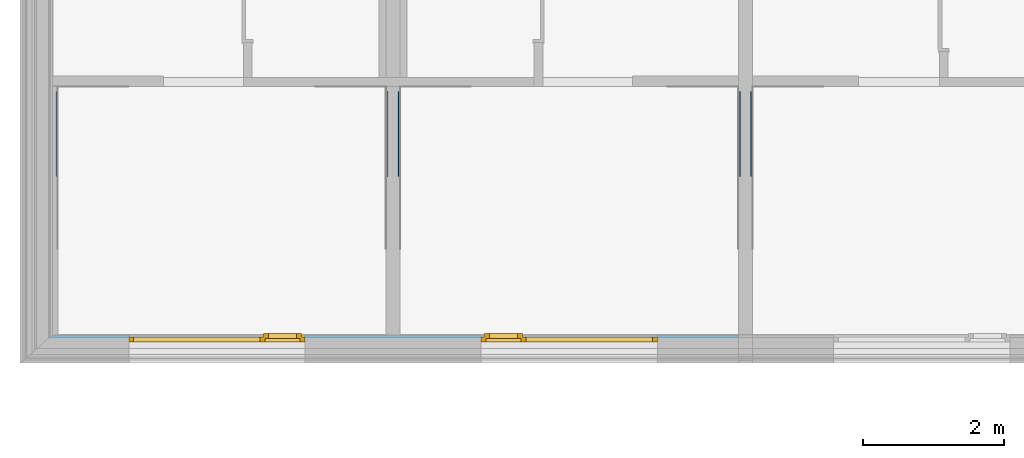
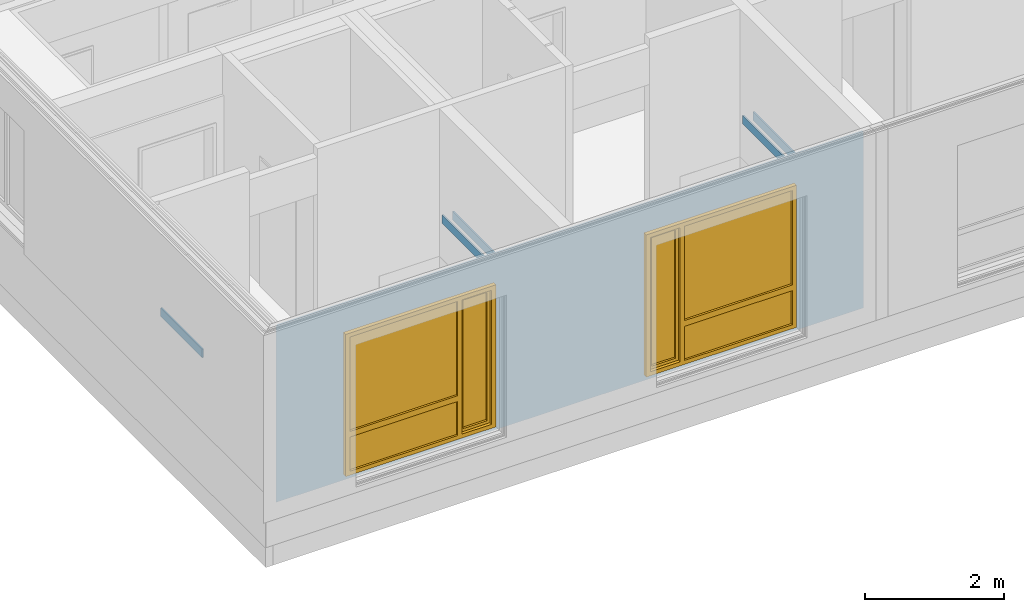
# One storey, part 66 of 207: 5 walls, 2 windows, 2 openings, plus 1 element that does not belong to this part.
"""IFC4 building model written with IfcOpenShell, lengths in metres."""

from ifc_helpers import new_model, entity, si_unit, converted_unit, derived_unit, frame, origin, origin_with_axes, place, context, subcontext, project, spatial, polyline, outline, extrude, closed_shell, open_shell, faceted_brep, surface_model, source, transform, mapped, material, element, fill, save


model = new_model("IFC4")

# Units and contexts
model_context = context("Model", 3, precision=1e-05, world=origin())
body_context = subcontext(model_context, "Body", "Model", "MODEL_VIEW")
ifc_project = project(units=[si_unit("LENGTHUNIT", "METRE"), si_unit("AREAUNIT", "SQUARE_METRE"), si_unit("VOLUMEUNIT", "CUBIC_METRE"), si_unit("MASSUNIT", "GRAM", prefix="KILO"), converted_unit("PLANEANGLEUNIT", "DEGREE", entity("IfcPlaneAngleMeasure", 0.0174532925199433), si_unit("PLANEANGLEUNIT", "RADIAN"), dimensions=[0, 0, 0, 0, 0, 0, 0]), derived_unit("THERMALTRANSMITTANCEUNIT", [(si_unit("POWERUNIT", "WATT"), 1), (si_unit("THERMODYNAMICTEMPERATUREUNIT", "KELVIN"), -1), (si_unit("LENGTHUNIT", "METRE"), -2)]), derived_unit("VOLUMETRICFLOWRATEUNIT", [(si_unit("LENGTHUNIT", "METRE"), 3), (converted_unit("TIMEUNIT", "hour", entity("IfcTimeMeasure", 3600.0), si_unit("TIMEUNIT", "SECOND"), dimensions=[0, 0, 1, 0, 0, 0, 0]), -1), (si_unit("LENGTHUNIT", "METRE"), -1)])], contexts=[model_context])

# Site, building, storey
site_placement = place(None, origin())
site = spatial("IfcSite", under=ifc_project, at=site_placement, Name="Psychiatrie Neubau Wunstorf", CompositionType="ELEMENT")
building_placement = place(site_placement, origin())
building = spatial("IfcBuilding", under=site, at=building_placement, Name="Neubau H2 Stationsgebäude", CompositionType="ELEMENT")
storey_placement = place(building_placement, frame((0.0, 0.0, -0.2)))
storey = spatial("IfcBuildingStorey", under=building, at=storey_placement, Name="H2 Ebene 0", CompositionType="ELEMENT", Elevation=-0.2)

# Wall, openings, windows
ifc_material = material(Name="WA-LB")
wall_1_placement = place(storey_placement, frame((9.9, -2.16399999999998, 0.5), z_axis=(0.0, 0.0, 1.0), x_axis=(-1.0, 1.40209871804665e-16, 0.0)))
wall_1 = element("IfcWall", 1, at=wall_1_placement, inside=storey, material=ifc_material, context=body_context, shape_type="SweptSolid", body=[
    extrude(outline(polyline([(-9.77137313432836, -0.0360000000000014), (-0.0413731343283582, -0.0360000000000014), (0.0, 0.0), (-9.77137313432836, 0.0), (-9.77137313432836, -0.0360000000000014)])), frame((9.77137313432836, 0.0360000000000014, 0.0), z_axis=(0.0, 0.0, 1.0), x_axis=(1.0, 0.0, 0.0)), (0.0, 0.0, 1.0), 3.1),
])
opening_1_placement = place(wall_1_placement, frame((6.15, 0.0, 0.1), z_axis=(0.0, 1.0, 0.0), x_axis=(0.0, 0.0, 1.0)))
opening_1 = element("IfcOpeningElement", 2, at=opening_1_placement, cuts=wall_1, Name="Fensteröffnung", ObjectType="Opening", context=body_context, shape_type="SweptSolid", body=[
    extrude(outline(polyline([(2.5, 2.5), (2.5, 0.0), (0.0, 0.0), (0.0, 2.5), (2.5, 2.5)])), origin_with_axes(), (0.0, 0.0, 1.0), 0.036),
])
opening_2_placement = place(wall_1_placement, frame((1.15, 0.0, 0.1), z_axis=(0.0, 1.0, 0.0), x_axis=(0.0, 0.0, 1.0)))
opening_2 = element("IfcOpeningElement", 3, at=opening_2_placement, cuts=wall_1, Name="Fensteröffnung", ObjectType="Opening", context=body_context, shape_type="SweptSolid", body=[
    extrude(outline(polyline([(2.5, 2.5), (2.5, 0.0), (0.0, 0.0), (0.0, 2.5), (2.5, 2.5)])), origin_with_axes(), (0.0, 0.0, 1.0), 0.036),
])
shared_shape_1 = source(origin_with_axes(), body_context, "Body", "SurfaceModel", [
    surface_model("IfcShellBasedSurfaceModel", [(0.0, 0.0, 2.5), (0.07, 0.0, 2.5), (0.07, 0.0, 0.0), (0.0, 0.0, 0.0), (0.0, 0.0699999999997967, 0.0), (0.07, 0.0699999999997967, 0.0), (0.07, 0.0699999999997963, 2.5), (0.0, 0.0699999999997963, 2.5)], [closed_shell([[[0, 1, 2, 3]], [[4, 5, 6, 7]], [[3, 4, 7, 0]], [[2, 5, 4, 3]], [[1, 6, 5, 2]], [[0, 7, 6, 1]]], orient=[[False], [False], [False], [False], [False], [False]])]),
    surface_model("IfcShellBasedSurfaceModel", [(2.43, 0.0, 2.5), (2.5, 0.0, 2.5), (2.5, 0.0, 0.0), (2.43, 0.0, 0.0), (2.43, 0.0699999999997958, 0.0), (2.5, 0.0699999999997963, 0.0), (2.5, 0.0699999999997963, 2.5), (2.43, 0.0699999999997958, 2.5)], [closed_shell([[[0, 1, 2, 3]], [[4, 5, 6, 7]], [[3, 4, 7, 0]], [[2, 5, 4, 3]], [[1, 6, 5, 2]], [[0, 7, 6, 1]]], orient=[[False], [False], [False], [False], [False], [False]])]),
    surface_model("IfcShellBasedSurfaceModel", [(0.07, 0.0, 0.07), (2.43, 0.0, 0.07), (2.43, 0.0, 0.0), (0.07, 0.0, 0.0), (0.07, 0.0699999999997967, 0.0), (2.43, 0.0699999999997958, 0.0), (2.43, 0.0699999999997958, 0.07), (0.07, 0.0699999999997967, 0.07)], [closed_shell([[[0, 1, 2, 3]], [[4, 5, 6, 7]], [[3, 4, 7, 0]], [[2, 5, 4, 3]], [[1, 6, 5, 2]], [[0, 7, 6, 1]]], orient=[[False], [False], [False], [False], [False], [False]])]),
    surface_model("IfcShellBasedSurfaceModel", [(0.07, 0.0, 2.5), (2.43, 0.0, 2.5), (2.43, 0.0, 2.43), (0.07, 0.0, 2.43), (0.07, 0.0699999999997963, 2.43), (2.43, 0.0699999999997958, 2.43), (2.43, 0.0699999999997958, 2.5), (0.07, 0.0699999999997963, 2.5)], [closed_shell([[[0, 1, 2, 3]], [[4, 5, 6, 7]], [[3, 4, 7, 0]], [[2, 5, 4, 3]], [[1, 6, 5, 2]], [[0, 7, 6, 1]]], orient=[[False], [False], [False], [False], [False], [False]])]),
    surface_model("IfcShellBasedSurfaceModel", [(0.565714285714, 0.0, 2.43), (0.635714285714, 0.0, 2.43), (0.635714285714, 0.0, 0.07), (0.565714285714, 0.0, 0.07), (0.565714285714, 0.0699999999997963, 0.07), (0.635714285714, 0.0699999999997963, 0.07), (0.635714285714, 0.0699999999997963, 2.43), (0.565714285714, 0.0699999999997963, 2.43)], [closed_shell([[[0, 1, 2, 3]], [[4, 5, 6, 7]], [[3, 4, 7, 0]], [[2, 5, 4, 3]], [[1, 6, 5, 2]], [[0, 7, 6, 1]]], orient=[[False], [False], [False], [False], [False], [False]])]),
    surface_model("IfcShellBasedSurfaceModel", [(0.05, -0.05, 2.45), (0.12, -0.05, 2.45), (0.12, -0.0499999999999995, 0.05), (0.05, -0.0499999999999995, 0.05), (0.05, 0.0199999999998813, 0.05), (0.12, 0.0199999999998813, 0.05), (0.12, 0.0199999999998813, 2.45), (0.05, 0.0199999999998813, 2.45)], [closed_shell([[[0, 1, 2, 3]], [[4, 5, 6, 7]], [[3, 4, 7, 0]], [[2, 5, 4, 3]], [[1, 6, 5, 2]], [[0, 7, 6, 1]]], orient=[[False], [False], [False], [False], [False], [False]])]),
    surface_model("IfcShellBasedSurfaceModel", [(0.515714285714, -0.05, 2.45), (0.585714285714, -0.05, 2.45), (0.585714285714, -0.05, 0.05), (0.515714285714, -0.05, 0.05), (0.515714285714, 0.0199999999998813, 0.05), (0.585714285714, 0.0199999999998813, 0.05), (0.585714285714, 0.0199999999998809, 2.45), (0.515714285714, 0.0199999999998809, 2.45)], [closed_shell([[[0, 1, 2, 3]], [[4, 5, 6, 7]], [[3, 4, 7, 0]], [[2, 5, 4, 3]], [[1, 6, 5, 2]], [[0, 7, 6, 1]]], orient=[[False], [False], [False], [False], [False], [False]])]),
    surface_model("IfcShellBasedSurfaceModel", [(0.12, -0.0499999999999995, 0.12), (0.515714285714, -0.05, 0.12), (0.515714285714, -0.05, 0.05), (0.12, -0.0499999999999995, 0.05), (0.12, 0.0199999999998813, 0.05), (0.515714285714, 0.0199999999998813, 0.05), (0.515714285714, 0.0199999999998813, 0.12), (0.12, 0.0199999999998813, 0.12)], [closed_shell([[[0, 1, 2, 3]], [[4, 5, 6, 7]], [[3, 4, 7, 0]], [[2, 5, 4, 3]], [[1, 6, 5, 2]], [[0, 7, 6, 1]]], orient=[[False], [False], [False], [False], [False], [False]])]),
    surface_model("IfcShellBasedSurfaceModel", [(0.12, -0.05, 2.45), (0.515714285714, -0.05, 2.45), (0.515714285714, -0.05, 2.38), (0.12, -0.05, 2.38), (0.12, 0.0199999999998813, 2.38), (0.515714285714, 0.0199999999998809, 2.38), (0.515714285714, 0.0199999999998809, 2.45), (0.12, 0.0199999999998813, 2.45)], [closed_shell([[[0, 1, 2, 3]], [[4, 5, 6, 7]], [[3, 4, 7, 0]], [[2, 5, 4, 3]], [[1, 6, 5, 2]], [[0, 7, 6, 1]]], orient=[[False], [False], [False], [False], [False], [False]])]),
    surface_model("IfcShellBasedSurfaceModel", [(0.635714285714, 0.0, 0.77), (2.43, 0.0, 0.77), (2.43, 0.0, 0.67), (0.635714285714, 0.0, 0.67), (0.635714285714, 0.0699999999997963, 0.67), (2.43, 0.0699999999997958, 0.67), (2.43, 0.0699999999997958, 0.77), (0.635714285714, 0.0699999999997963, 0.77)], [closed_shell([[[0, 1, 2, 3]], [[4, 5, 6, 7]], [[3, 4, 7, 0]], [[2, 5, 4, 3]], [[1, 6, 5, 2]], [[0, 7, 6, 1]]], orient=[[False], [False], [False], [False], [False], [False]])]),
    surface_model("IfcShellBasedSurfaceModel", [(0.12, -0.0150000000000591, 0.12), (0.12, -0.0150000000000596, 2.38), (0.515714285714, -0.0150000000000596, 2.38), (0.515714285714, -0.0150000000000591, 0.12)], [open_shell([[[0, 1, 2, 3]]], orient=[[False]])]),
    surface_model("IfcShellBasedSurfaceModel", [(0.635714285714, 0.0349999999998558, 0.07), (0.635714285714, 0.0349999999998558, 0.67), (2.43, 0.0349999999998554, 0.67), (2.43, 0.0349999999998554, 0.07)], [open_shell([[[0, 1, 2, 3]]], orient=[[False]])]),
    surface_model("IfcShellBasedSurfaceModel", [(0.635714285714, 0.0349999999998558, 0.77), (0.635714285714, 0.0349999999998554, 2.43), (2.43, 0.0349999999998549, 2.43), (2.43, 0.0349999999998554, 0.77)], [open_shell([[[0, 1, 2, 3]]], orient=[[False]])]),
])
window_1_placement = place(opening_1_placement, frame((0.0, 0.0, 0.03), z_axis=(1.0, 0.0, 0.0), x_axis=(0.0, 1.0, -4.16890685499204e-17)))
window_1 = element("IfcWindow", 4, at=window_1_placement, inside=storey, Name="Fenster", OverallHeight=2.5, OverallWidth=2.5, PartitioningType="USERDEFINED", PredefinedType="WINDOW", context=body_context, shape_type="MappedRepresentation", body=[
    mapped(shared_shape_1, transform((0.0, 0.0, 0.0), x_axis=(1.0, 0.0, 0.0), y_axis=(0.0, 1.0, 0.0), z_axis=(0.0, 0.0, 1.0), scale=1.0)),
])
fill(opening_1, window_1)
shared_shape_2 = source(origin_with_axes(), body_context, "Body", "SurfaceModel", [
    surface_model("IfcShellBasedSurfaceModel", [(2.5, 0.0, 2.5), (2.5, 0.0, 0.0), (2.43, 0.0, 0.0), (2.43, 0.0, 2.5), (2.5, 0.0699999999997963, 0.0), (2.5, 0.0699999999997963, 2.5), (2.43, 0.0699999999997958, 2.5), (2.43, 0.0699999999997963, 0.0)], [closed_shell([[[0, 1, 2, 3]], [[4, 5, 6, 7]], [[1, 0, 5, 4]], [[2, 1, 4, 7]], [[3, 2, 7, 6]], [[0, 3, 6, 5]]], orient=[[False], [False], [False], [False], [False], [False]])]),
    surface_model("IfcShellBasedSurfaceModel", [(0.07, 0.0, 2.5), (0.07, 0.0, 0.0), (0.0, 0.0, 0.0), (0.0, 0.0, 2.5), (0.07, 0.0699999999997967, 0.0), (0.07, 0.0699999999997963, 2.5), (0.0, 0.0699999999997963, 2.5), (0.0, 0.0699999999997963, 0.0)], [closed_shell([[[0, 1, 2, 3]], [[4, 5, 6, 7]], [[1, 0, 5, 4]], [[2, 1, 4, 7]], [[3, 2, 7, 6]], [[0, 3, 6, 5]]], orient=[[False], [False], [False], [False], [False], [False]])]),
    surface_model("IfcShellBasedSurfaceModel", [(2.43, 0.0, 0.07), (2.43, 0.0, 0.0), (0.07, 0.0, 0.0), (0.07, 0.0, 0.07), (2.43, 0.0699999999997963, 0.0), (2.43, 0.0699999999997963, 0.07), (0.07, 0.0699999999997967, 0.07), (0.07, 0.0699999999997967, 0.0)], [closed_shell([[[0, 1, 2, 3]], [[4, 5, 6, 7]], [[1, 0, 5, 4]], [[2, 1, 4, 7]], [[3, 2, 7, 6]], [[0, 3, 6, 5]]], orient=[[False], [False], [False], [False], [False], [False]])]),
    surface_model("IfcShellBasedSurfaceModel", [(2.43, 0.0, 2.5), (2.43, 0.0, 2.43), (0.07, 0.0, 2.43), (0.07, 0.0, 2.5), (2.43, 0.0699999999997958, 2.43), (2.43, 0.0699999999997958, 2.5), (0.07, 0.0699999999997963, 2.5), (0.07, 0.0699999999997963, 2.43)], [closed_shell([[[0, 1, 2, 3]], [[4, 5, 6, 7]], [[1, 0, 5, 4]], [[2, 1, 4, 7]], [[3, 2, 7, 6]], [[0, 3, 6, 5]]], orient=[[False], [False], [False], [False], [False], [False]])]),
    surface_model("IfcShellBasedSurfaceModel", [(1.934285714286, 0.0, 2.43), (1.934285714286, 0.0, 0.07), (1.864285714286, 0.0, 0.07), (1.864285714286, 0.0, 2.43), (1.934285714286, 0.0699999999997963, 0.07), (1.934285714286, 0.0699999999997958, 2.43), (1.864285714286, 0.0699999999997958, 2.43), (1.864285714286, 0.0699999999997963, 0.07)], [closed_shell([[[0, 1, 2, 3]], [[4, 5, 6, 7]], [[1, 0, 5, 4]], [[2, 1, 4, 7]], [[3, 2, 7, 6]], [[0, 3, 6, 5]]], orient=[[False], [False], [False], [False], [False], [False]])]),
    surface_model("IfcShellBasedSurfaceModel", [(2.45, -0.0500000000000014, 2.45), (2.45, -0.0500000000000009, 0.05), (2.38, -0.0500000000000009, 0.05), (2.38, -0.0500000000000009, 2.45), (2.45, 0.0199999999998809, 0.05), (2.45, 0.0199999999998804, 2.45), (2.38, 0.0199999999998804, 2.45), (2.38, 0.0199999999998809, 0.05)], [closed_shell([[[0, 1, 2, 3]], [[4, 5, 6, 7]], [[1, 0, 5, 4]], [[2, 1, 4, 7]], [[3, 2, 7, 6]], [[0, 3, 6, 5]]], orient=[[False], [False], [False], [False], [False], [False]])]),
    surface_model("IfcShellBasedSurfaceModel", [(1.984285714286, -0.0500000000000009, 2.45), (1.984285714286, -0.0500000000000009, 0.05), (1.914285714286, -0.0500000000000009, 0.05), (1.914285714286, -0.0500000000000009, 2.45), (1.984285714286, 0.0199999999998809, 0.05), (1.984285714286, 0.0199999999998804, 2.45), (1.914285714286, 0.0199999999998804, 2.45), (1.914285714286, 0.0199999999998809, 0.05)], [closed_shell([[[0, 1, 2, 3]], [[4, 5, 6, 7]], [[1, 0, 5, 4]], [[2, 1, 4, 7]], [[3, 2, 7, 6]], [[0, 3, 6, 5]]], orient=[[False], [False], [False], [False], [False], [False]])]),
    surface_model("IfcShellBasedSurfaceModel", [(2.38, -0.0500000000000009, 0.12), (2.38, -0.0500000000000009, 0.05), (1.984285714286, -0.0500000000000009, 0.05), (1.984285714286, -0.0500000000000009, 0.12), (2.38, 0.0199999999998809, 0.05), (2.38, 0.0199999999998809, 0.12), (1.984285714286, 0.0199999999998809, 0.12), (1.984285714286, 0.0199999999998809, 0.05)], [closed_shell([[[0, 1, 2, 3]], [[4, 5, 6, 7]], [[1, 0, 5, 4]], [[2, 1, 4, 7]], [[3, 2, 7, 6]], [[0, 3, 6, 5]]], orient=[[False], [False], [False], [False], [False], [False]])]),
    surface_model("IfcShellBasedSurfaceModel", [(2.38, -0.0500000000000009, 2.45), (2.38, -0.0500000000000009, 2.38), (1.984285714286, -0.0500000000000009, 2.38), (1.984285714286, -0.0500000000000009, 2.45), (2.38, 0.0199999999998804, 2.38), (2.38, 0.0199999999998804, 2.45), (1.984285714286, 0.0199999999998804, 2.45), (1.984285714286, 0.0199999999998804, 2.38)], [closed_shell([[[0, 1, 2, 3]], [[4, 5, 6, 7]], [[1, 0, 5, 4]], [[2, 1, 4, 7]], [[3, 2, 7, 6]], [[0, 3, 6, 5]]], orient=[[False], [False], [False], [False], [False], [False]])]),
    surface_model("IfcShellBasedSurfaceModel", [(1.864285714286, 0.0, 0.77), (1.864285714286, 0.0, 0.67), (0.07, 0.0, 0.67), (0.07, 0.0, 0.77), (1.864285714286, 0.0699999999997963, 0.67), (1.864285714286, 0.0699999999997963, 0.77), (0.07, 0.0699999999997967, 0.77), (0.07, 0.0699999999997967, 0.67)], [closed_shell([[[0, 1, 2, 3]], [[4, 5, 6, 7]], [[1, 0, 5, 4]], [[2, 1, 4, 7]], [[3, 2, 7, 6]], [[0, 3, 6, 5]]], orient=[[False], [False], [False], [False], [False], [False]])]),
    surface_model("IfcShellBasedSurfaceModel", [(2.38, -0.01500000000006, 0.12), (1.984285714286, -0.01500000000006, 0.12), (1.984285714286, -0.01500000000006, 2.38), (2.38, -0.0150000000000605, 2.38)], [open_shell([[[0, 1, 2, 3]]], orient=[[False]])]),
    surface_model("IfcShellBasedSurfaceModel", [(1.864285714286, 0.0349999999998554, 0.07), (0.07, 0.0349999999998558, 0.07), (0.07, 0.0349999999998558, 0.67), (1.864285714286, 0.0349999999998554, 0.67)], [open_shell([[[0, 1, 2, 3]]], orient=[[False]])]),
    surface_model("IfcShellBasedSurfaceModel", [(1.864285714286, 0.0349999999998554, 0.77), (0.07, 0.0349999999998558, 0.77), (0.07, 0.0349999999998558, 2.43), (1.864285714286, 0.0349999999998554, 2.43)], [open_shell([[[0, 1, 2, 3]]], orient=[[False]])]),
])
window_2_placement = place(opening_2_placement, frame((0.0, 0.0, 0.03), z_axis=(1.0, 0.0, 0.0), x_axis=(0.0, 1.0, -4.16890685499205e-17)))
window_2 = element("IfcWindow", 5, at=window_2_placement, inside=storey, Name="Fenster", OverallHeight=2.5, OverallWidth=2.5, PartitioningType="USERDEFINED", PredefinedType="WINDOW", context=body_context, shape_type="MappedRepresentation", body=[
    mapped(shared_shape_2, transform((0.0, 0.0, 0.0), x_axis=(1.0, 0.0, 0.0), y_axis=(0.0, 1.0, 0.0), z_axis=(0.0, 0.0, 1.0), scale=1.0)),
])
fill(opening_2, window_2)

# Walls
wall_2_placement = place(storey_placement, frame((4.9, 0.0854496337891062, 1.625)))
element("IfcWall", 6, at=wall_2_placement, inside=storey, Name="WV 1.1", context=body_context, shape_type="Brep", body=[
    faceted_brep([(0.025, 1.2, 0.0), (0.0, 1.2, 0.0), (0.0, 0.0, 0.0), (0.025, 0.0, 0.0), (0.0, 1.2, 0.15), (0.025, 1.2, 0.15), (0.025, 0.0, 0.15), (0.0, 0.0, 0.15)], [[[0, 1, 2, 3]], [[4, 5, 6, 7]], [[1, 0, 5, 4]], [[2, 1, 4, 7]], [[3, 2, 7, 6]], [[0, 3, 6, 5]]], orient=[[False], [False], [False], [False], [False], [False]]),
])
wall_3_placement = place(storey_placement, frame((0.219999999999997, 0.0854496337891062, 1.625)))
element("IfcWall", 7, at=wall_3_placement, inside=storey, Name="WV 1.1", context=body_context, shape_type="Brep", body=[
    faceted_brep([(0.025, 1.2, 0.0), (0.0, 1.2, 0.0), (0.0, 0.0, 0.0), (0.0250000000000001, 0.0, 0.0), (0.0, 1.2, 0.15), (0.025, 1.2, 0.15), (0.0250000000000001, 0.0, 0.15), (0.0, 0.0, 0.15)], [[[0, 1, 2, 3]], [[4, 5, 6, 7]], [[1, 0, 5, 4]], [[2, 1, 4, 7]], [[3, 2, 7, 6]], [[0, 3, 6, 5]]], orient=[[False], [False], [False], [False], [False], [False]]),
])
for number, where, name in (
    (8, (5.075, 0.0854496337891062, 1.625), "WV 1.1"),
    (9, (9.89999999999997, 0.0854496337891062, 1.625), "WV 1.1"),
    (10, (10.075, 0.0854496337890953, 1.625), "WV 1.1"),
):
    element("IfcWall", number, at=place(storey_placement, frame(where)), inside=storey, Name=name, context=body_context, shape_type="Brep", body=[
        faceted_brep([(0.025, 1.2, 0.0), (0.0, 1.2, 0.0), (0.0, 0.0, 0.0), (0.025, 0.0, 0.0), (0.0, 1.2, 0.15), (0.025, 1.2, 0.15), (0.025, 0.0, 0.15), (0.0, 0.0, 0.15)], [[[0, 1, 2, 3]], [[4, 5, 6, 7]], [[1, 0, 5, 4]], [[2, 1, 4, 7]], [[3, 2, 7, 6]], [[0, 3, 6, 5]]], orient=[[False], [False], [False], [False], [False], [False]]),
    ])

save(model, "model.ifc")
